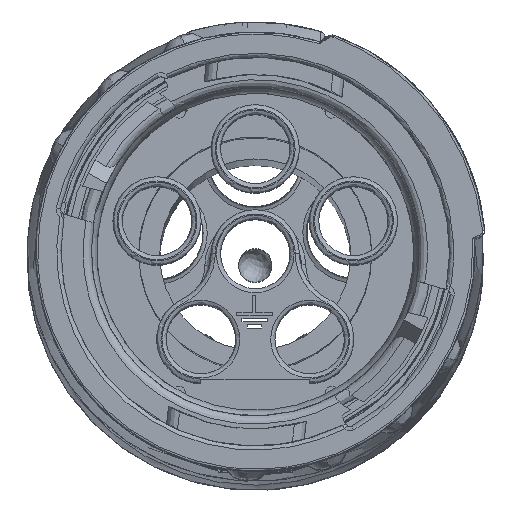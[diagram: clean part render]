
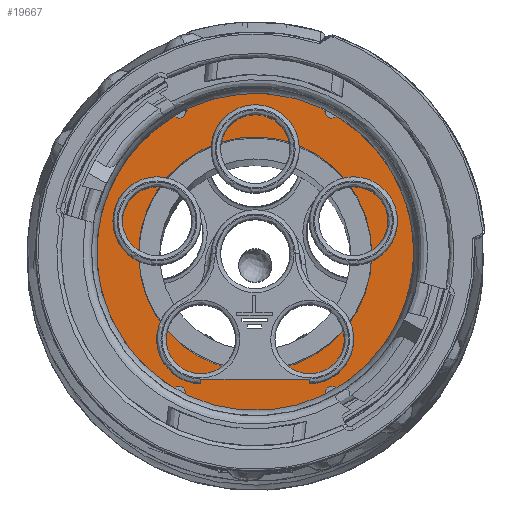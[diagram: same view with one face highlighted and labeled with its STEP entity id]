
A CAD part, top view. The second image highlights one B-rep face of the part: STEP entity #19667.
In plain terms, the highlighted planar face has unit normal (0, 0, -1).
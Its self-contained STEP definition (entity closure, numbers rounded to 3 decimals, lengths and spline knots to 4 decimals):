
#3743 = DIRECTION ( 'NONE',  ( -1., 0., 0. ) ) ;
#6580 = VERTEX_POINT ( 'NONE', #49286 ) ;
#7898 = ORIENTED_EDGE ( 'NONE', *, *, #32860, .F. ) ;
#15769 = CIRCLE ( 'NONE', #17742, 5.55 ) ;
#17071 = FACE_OUTER_BOUND ( 'NONE', #57628, .T. ) ;
#17391 = CIRCLE ( 'NONE', #59898, 7.6918 ) ;
#17742 = AXIS2_PLACEMENT_3D ( 'NONE', #55456, #31923, #3743 ) ;
#18271 = FACE_BOUND ( 'NONE', #28979, .T. ) ;
#19487 = ORIENTED_EDGE ( 'NONE', *, *, #60667, .T. ) ;
#19667 = ADVANCED_FACE ( 'NONE', ( #17071, #18271 ), #27539, .T. ) ;
#21626 = CARTESIAN_POINT ( 'NONE',  ( 2.379, -2.769, 1.2496 ) ) ;
#22536 = DIRECTION ( 'NONE',  ( 0., 0., -1. ) ) ;
#22605 = CARTESIAN_POINT ( 'NONE',  ( 2.379, -2.769, 1.2496 ) ) ;
#26436 = AXIS2_PLACEMENT_3D ( 'NONE', #22605, #41789, #41490 ) ;
#27539 = PLANE ( 'NONE',  #26436 ) ;
#28979 = EDGE_LOOP ( 'NONE', ( #7898 ) ) ;
#31923 = DIRECTION ( 'NONE',  ( 0., 0., -1. ) ) ;
#32860 = EDGE_CURVE ( 'NONE', #6580, #6580, #15769, .T. ) ;
#36268 = CARTESIAN_POINT ( 'NONE',  ( -5.3127, -2.769, 1.2496 ) ) ;
#41219 = VERTEX_POINT ( 'NONE', #36268 ) ;
#41490 = DIRECTION ( 'NONE',  ( -1., 0., 0. ) ) ;
#41789 = DIRECTION ( 'NONE',  ( 0., 0., -1. ) ) ;
#49286 = CARTESIAN_POINT ( 'NONE',  ( -3.171, -2.769, 1.2496 ) ) ;
#49789 = DIRECTION ( 'NONE',  ( -1., 0., 0. ) ) ;
#55456 = CARTESIAN_POINT ( 'NONE',  ( 2.379, -2.769, 1.2496 ) ) ;
#57628 = EDGE_LOOP ( 'NONE', ( #19487 ) ) ;
#59898 = AXIS2_PLACEMENT_3D ( 'NONE', #21626, #22536, #49789 ) ;
#60667 = EDGE_CURVE ( 'NONE', #41219, #41219, #17391, .T. ) ;
